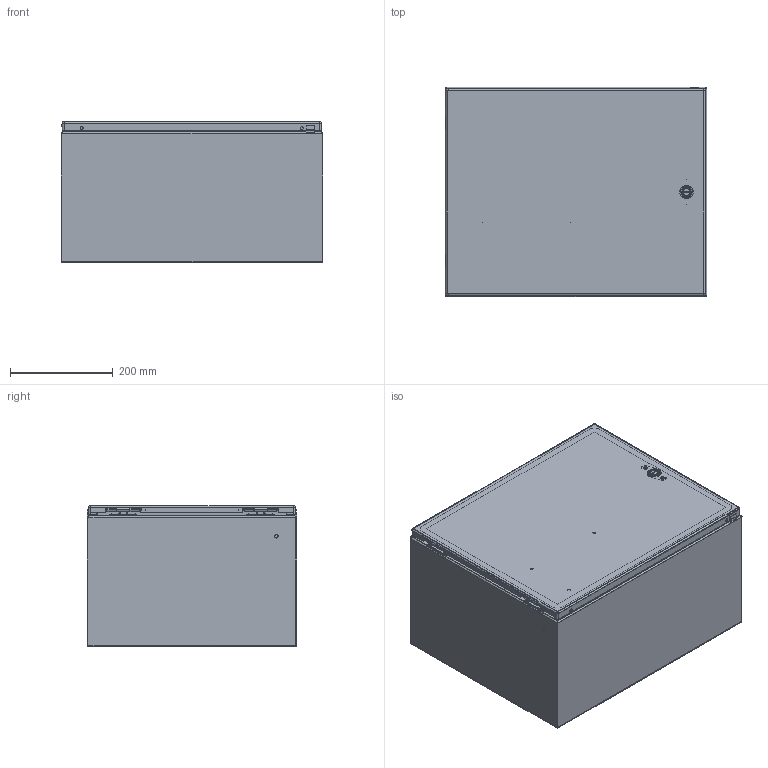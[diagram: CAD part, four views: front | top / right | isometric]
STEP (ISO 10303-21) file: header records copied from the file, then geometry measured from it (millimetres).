
FILE_DESCRIPTION (( 'STEP AP203' ), '1' );
FILE_NAME ('csd162010.STEP', '2012-05-10T15:55:52', ( 'User' ), ( 'Pentair Inc' ), 'SwSTEP 2.0', 'SolidWorks 2010', '' );
FILE_SCHEMA (( 'CONFIG_CONTROL_DESIGN' ));
Length unit declared in the file: inch
Products named in the file (27): csd162010; 87934538; 87934341_default; 23271001_After Weld; 87937921_assy; 87937961_weldment; 87936120; 99401225; 87931362_87931362; 64101001; 64201001; 87541994_Installed Height; 87541995; 64202001; 64210001; 64203001; 87927840_87927840; 87932903; 64138001; 87937998; 87543027; 89076399; 89076193; 89056623; 87929507; 87929767; 87929769_Installed on Pin
Assembly tree (38 placements, depth 4):
  csd162010
    87934538
      87934341_default
      23271001_After Weld  x4
      99401225
    87543027  x2
    89076399  x2
      89056623
      89076193
    87929507  x2
      87929767
      87929769_Installed on Pin
    87937921_assy
      64138001  x2
      87937998
      87932903  x2
      87937961_weldment
        87931362_87931362  x4
        87936120
        99401225
      64101001
        64210001
        87541994_Installed Height
        87541995
        64201001
        64202001
        64203001
        87927840_87927840
Bounding box: 508 x 407.13 x 274.7 mm (x, y, z)
Volume: 1314773.5 mm3; surface area: 2011473.3 mm2
Topology: 35 solids, 35 shells, 1689 faces, 4125 edges, 2490 vertices
Faces by surface type: plane 652, cylinder 547, bspline 288, torus 106, cone 88, sphere 8
Entity records: 46223 total; most frequent: CARTESIAN_POINT 16302, ORIENTED_EDGE 5874, DIRECTION 5117, EDGE_CURVE 2937, AXIS2_PLACEMENT_3D 1833, VERTEX_POINT 1802, LINE 1451, VECTOR 1451
